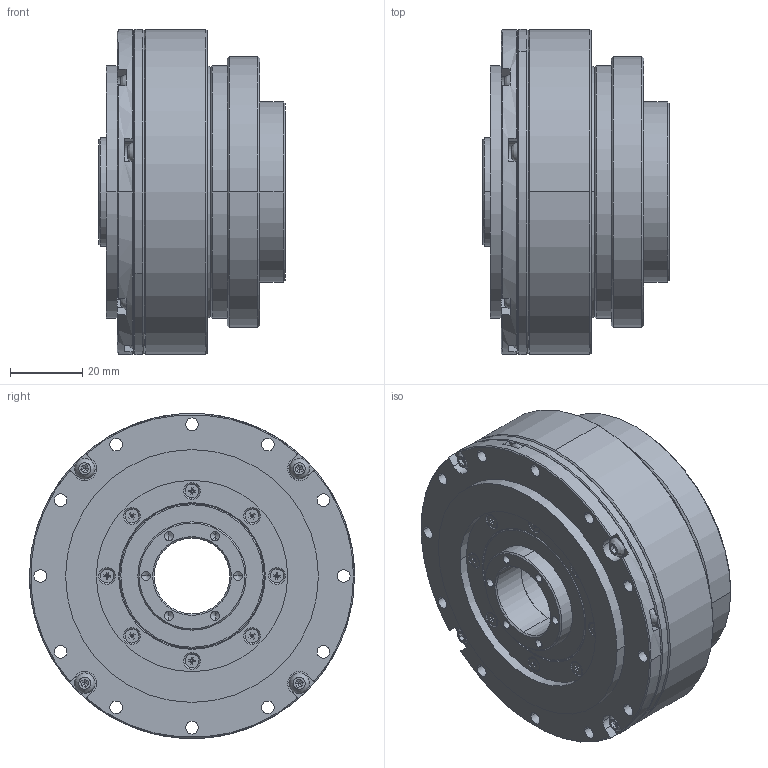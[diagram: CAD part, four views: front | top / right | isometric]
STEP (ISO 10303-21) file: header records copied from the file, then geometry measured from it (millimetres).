
FILE_DESCRIPTION (( 'STEP AP203' ), '1' );
FILE_NAME ('LHSG-20-XXX-C-III.step', '2025-01-07T07:24:54', ( '' ), ( '' ), 'SwSTEP 2.0', 'SolidWorks 2023', '' );
FILE_SCHEMA (( 'CONFIG_CONTROL_DESIGN' ));
Length unit declared in the file: metre
Products named in the file (1): LHSG-20-XXX-C-III
Bounding box: 51.5 x 90 x 90 mm (x, y, z)
Volume: 175726.6 mm3; surface area: 139125.5 mm2
Topology: 61 solids, 61 shells, 1945 faces, 5371 edges, 3332 vertices
Faces by surface type: cylinder 606, bspline 516, plane 514, cone 309
Entity records: 74387 total; most frequent: CARTESIAN_POINT 27771, ORIENTED_EDGE 10318, DIRECTION 9169, EDGE_CURVE 5159, AXIS2_PLACEMENT_3D 3816, VERTEX_POINT 3332, CIRCLE 2386, EDGE_LOOP 2313
